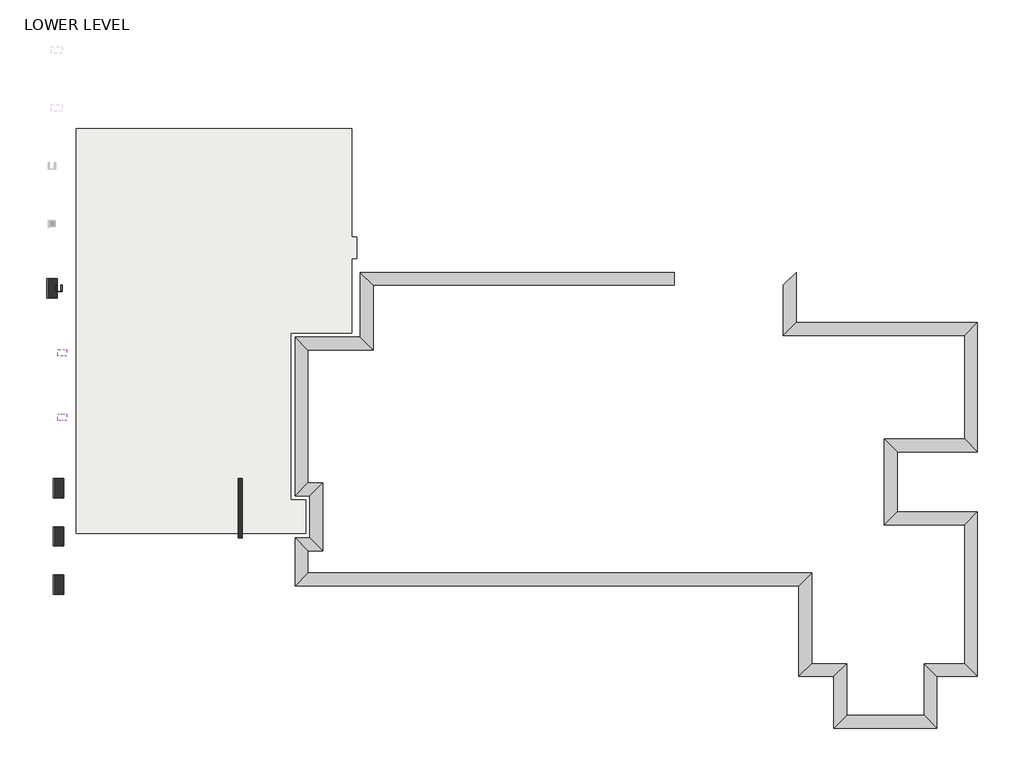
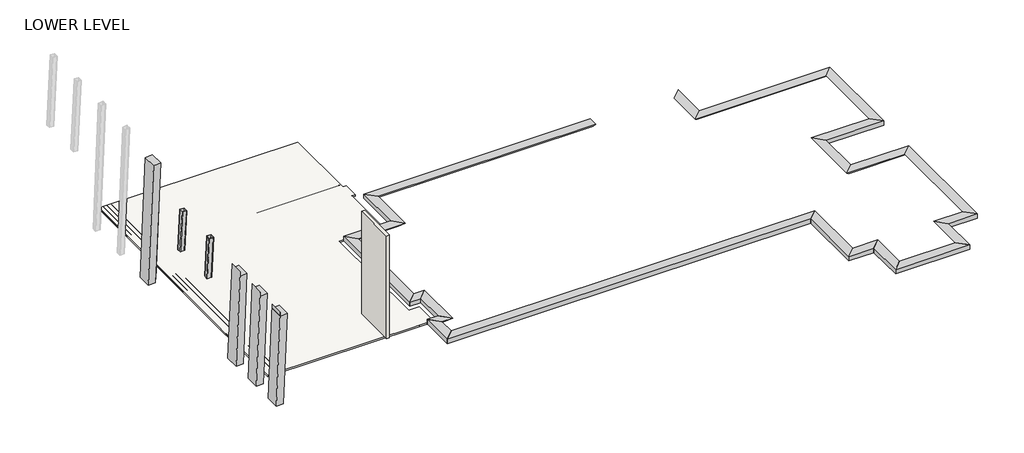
# One storey, part 1 of 3: 10 proxies, 7 columns, 1 slab, 1 wall.
"""IFC4 building model written with IfcOpenShell, lengths in millimetres."""

from ifc_helpers import new_model, si_unit, frame, origin, place, context, project, spatial, polyline, circle_curve, ellipse_curve, outline, extrude, faceted_brep, element, save
from ifc_brep_helpers import plane_surface, cylinder_surface, revolved_surface, advanced_brep

model = new_model("IFC4")

# Units and contexts
model_context = context("Model", 3, world=origin())
ifc_project = project(units=[si_unit("LENGTHUNIT", "METRE", prefix="MILLI")], contexts=[model_context])

# Site, building, storey
site = spatial("IfcSite", under=ifc_project)
building = spatial("IfcBuilding", under=site)
storey = spatial("IfcBuildingStorey", under=building, Name="LOWER LEVEL", Elevation=29972.0)

# Proxies
placement = place(None, origin())
element("IfcBuildingElementProxy", 1, Name="Thickened 24\" x 12\"", ObjectType="Thickened 24\" x 12\"", at=placement, inside=storey, context=model_context, shape_type="Brep", body=[
    faceted_brep([(-10225.7204607, -7095.1304995, 30048.2), (-10225.7204607, -7095.1304995, 30353.0), (-9616.1204607, -6485.5304995, 30353.0), (-9920.9204607, -6790.3304995, 30048.2), (13583.6045393, -7095.1304995, 30048.2), (13888.4045393, -6790.3304995, 30048.2), (14193.2045393, -6485.5304995, 30353.0), (13583.6045393, -7095.1304995, 30353.0)], [[[0, 1, 2, 3]], [[4, 5, 6, 7]], [[1, 0, 4, 7]], [[2, 1, 7, 6]], [[3, 2, 6, 5]], [[0, 3, 5, 4]]]),
])
element("IfcBuildingElementProxy", 2, Name="Thickened 24\" x 12\"", ObjectType="Thickened 24\" x 12\"", at=placement, inside=storey, context=model_context, shape_type="Brep", body=[
    faceted_brep([(13583.6045393, -7095.1304995, 30048.2), (13583.6045393, -7095.1304995, 30353.0), (14193.2045393, -6485.5304995, 30353.0), (13888.4045393, -6790.3304995, 30048.2), (13583.6045393, -11381.3804995, 30048.2), (13888.4045393, -11076.5804995, 30048.2), (14193.2045393, -10771.7804995, 30353.0), (13583.6045393, -11381.3804995, 30353.0)], [[[0, 1, 2, 3]], [[4, 5, 6, 7]], [[1, 0, 4, 7]], [[2, 1, 7, 6]], [[3, 2, 6, 5]], [[0, 3, 5, 4]]]),
    faceted_brep([(20105.0545393, -11381.3804995, 30048.2), (20105.0545393, -11381.3804995, 30353.0), (19495.4545393, -10771.7804995, 30353.0), (19800.2545393, -11076.5804995, 30048.2), (22019.578935, -11381.3804995, 30048.2), (22019.578935, -11381.3804995, 30353.0), (21409.978935, -10771.7804995, 30353.0), (21714.778935, -11076.5804995, 30048.2), (22019.578935, -3602.6304995, 30048.2), (22019.578935, -3602.6304995, 30353.0), (21409.978935, -4212.2304995, 30353.0), (21714.778935, -3907.4304995, 30048.2), (18219.8486799, -3602.6304995, 30048.2), (18219.8486799, -3602.6304995, 30353.0), (17610.2486799, -4212.2304995, 30353.0), (17915.0486799, -3907.4304995, 30048.2), (18219.8486799, -757.8304995, 30048.2), (18219.8486799, -757.8304995, 30353.0), (17610.2486799, -148.2304995, 30353.0), (17915.0486799, -453.0304995, 30048.2), (22019.578935, -757.8304995, 30048.2), (22019.578935, -757.8304995, 30353.0), (21409.978935, -148.2304995, 30353.0), (21714.778935, -453.0304995, 30048.2), (22019.578935, 5350.8695005, 30048.2), (22019.578935, 5350.8695005, 30353.0), (21409.978935, 4741.2695005, 30353.0), (21714.778935, 5046.0695005, 30048.2), (13450.2545393, 5350.8695005, 30048.2), (13450.2545393, 5350.8695005, 30353.0), (12840.6545393, 4741.2695005, 30353.0), (13145.4545393, 5046.0695005, 30048.2), (13450.2545393, 7725.7695005, 30048.2), (13145.4545393, 7420.9695005, 30048.2), (12840.6545393, 7116.1695005, 30353.0), (13450.2545393, 7725.7695005, 30353.0)], [[[0, 1, 2, 3]], [[1, 0, 4, 5]], [[2, 1, 5, 6]], [[3, 2, 6, 7]], [[0, 3, 7, 4]], [[5, 4, 8, 9]], [[6, 5, 9, 10]], [[7, 6, 10, 11]], [[4, 7, 11, 8]], [[9, 8, 12, 13]], [[10, 9, 13, 14]], [[11, 10, 14, 15]], [[8, 11, 15, 12]], [[13, 12, 16, 17]], [[14, 13, 17, 18]], [[15, 14, 18, 19]], [[12, 15, 19, 16]], [[17, 16, 20, 21]], [[18, 17, 21, 22]], [[19, 18, 22, 23]], [[16, 19, 23, 20]], [[21, 20, 24, 25]], [[22, 21, 25, 26]], [[23, 22, 26, 27]], [[20, 23, 27, 24]], [[25, 24, 28, 29]], [[26, 25, 29, 30]], [[27, 26, 30, 31]], [[24, 27, 31, 28]], [[32, 33, 34, 35]], [[29, 28, 32, 35]], [[30, 29, 35, 34]], [[31, 30, 34, 33]], [[28, 31, 33, 32]]]),
    faceted_brep([(7700.3295393, 7725.7695005, 30048.2), (7700.3295393, 7725.7695005, 30353.0), (7700.3295393, 7382.8695005, 30353.0), (7700.3295393, 7116.1695005, 30353.0), (7700.3295393, 7420.9695005, 30048.2), (7700.3295393, 7687.6695005, 30048.2), (-7149.1454607, 7725.7695005, 30048.2), (-7149.1454607, 7725.7695005, 30353.0), (-6539.5454607, 7116.1695005, 30353.0), (-6844.3454607, 7420.9695005, 30048.2), (-7149.1454607, 4661.8945005, 30048.2), (-7149.1454607, 4661.8945005, 30353.0), (-6539.5454607, 4052.2945005, 30353.0), (-6844.3454607, 4357.0945005, 30048.2), (-10225.7204607, 4661.8945005, 30048.2), (-10225.7204607, 4661.8945005, 30353.0), (-9616.1204607, 4052.2945005, 30353.0), (-9920.9204607, 4357.0945005, 30048.2), (-10225.7204607, -2837.4554995, 30048.2), (-9920.9204607, -2532.6554995, 30048.2), (-9616.1204607, -2227.8554995, 30353.0), (-10225.7204607, -2837.4554995, 30353.0)], [[[0, 1, 2, 3, 4, 5]], [[1, 0, 6, 7]], [[3, 2, 1, 7, 8]], [[4, 3, 8, 9]], [[0, 5, 4, 9, 6]], [[7, 6, 10, 11]], [[8, 7, 11, 12]], [[9, 8, 12, 13]], [[6, 9, 13, 10]], [[11, 10, 14, 15]], [[12, 11, 15, 16]], [[13, 12, 16, 17]], [[10, 13, 17, 14]], [[18, 19, 20, 21]], [[15, 14, 18, 21]], [[16, 15, 21, 20]], [[17, 16, 20, 19]], [[14, 17, 19, 18]]]),
])
element("IfcBuildingElementProxy", 3, Name="Thickened 24\" x 12\"", ObjectType="Thickened 24\" x 12\"", at=placement, inside=storey, context=model_context, shape_type="Brep", body=[
    faceted_brep([(-10225.7204607, -4821.8304995, 30048.2), (-10225.7204607, -4821.8304995, 30353.0), (-9616.1204607, -5431.4304995, 30353.0), (-9920.9204607, -5126.6304995, 30048.2), (-10225.7204607, -7095.1304995, 30048.2), (-9920.9204607, -6790.3304995, 30048.2), (-9616.1204607, -6485.5304995, 30353.0), (-10225.7204607, -7095.1304995, 30353.0)], [[[0, 1, 2, 3]], [[4, 5, 6, 7]], [[1, 0, 4, 7]], [[2, 1, 7, 6]], [[3, 2, 6, 5]], [[0, 3, 5, 4]]]),
])
element("IfcBuildingElementProxy", 4, Name="Thickened 24\" x 12\"", ObjectType="Thickened 24\" x 12\"", at=placement, inside=storey, context=model_context, shape_type="Brep", body=[
    faceted_brep([(13583.6045393, -11381.3804995, 30048.2), (13583.6045393, -11381.3804995, 30353.0), (14193.2045393, -10771.7804995, 30353.0), (13888.4045393, -11076.5804995, 30048.2), (15240.9545393, -11381.3804995, 30048.2), (15545.7545393, -11076.5804995, 30048.2), (15850.5545393, -10771.7804995, 30353.0), (15240.9545393, -11381.3804995, 30353.0)], [[[0, 1, 2, 3]], [[4, 5, 6, 7]], [[1, 0, 4, 7]], [[2, 1, 7, 6]], [[3, 2, 6, 5]], [[0, 3, 5, 4]]]),
])
element("IfcBuildingElementProxy", 5, Name="Thickened 24\" x 12\"", ObjectType="Thickened 24\" x 12\"", at=placement, inside=storey, context=model_context, shape_type="Brep", body=[
    faceted_brep([(-10225.7204607, -2837.4554995, 30048.2), (-10225.7204607, -2837.4554995, 30353.0), (-9616.1204607, -2227.8554995, 30353.0), (-9920.9204607, -2532.6554995, 30048.2), (-9524.0454607, -2837.4554995, 30048.2), (-9219.2454607, -2532.6554995, 30048.2), (-8914.4454607, -2227.8554995, 30353.0), (-9524.0454607, -2837.4554995, 30353.0)], [[[0, 1, 2, 3]], [[4, 5, 6, 7]], [[1, 0, 4, 7]], [[2, 1, 7, 6]], [[3, 2, 6, 5]], [[0, 3, 5, 4]]]),
])
element("IfcBuildingElementProxy", 6, Name="Thickened 24\" x 12\"", ObjectType="Thickened 24\" x 12\"", at=placement, inside=storey, context=model_context, shape_type="Brep", body=[
    faceted_brep([(-9524.0454607, -2837.4554995, 30048.2), (-9524.0454607, -2837.4554995, 30353.0), (-8914.4454607, -2227.8554995, 30353.0), (-9219.2454607, -2532.6554995, 30048.2), (-9524.0454607, -4821.8304995, 30048.2), (-9219.2454607, -5126.6304995, 30048.2), (-8914.4454607, -5431.4304995, 30353.0), (-9524.0454607, -4821.8304995, 30353.0)], [[[0, 1, 2, 3]], [[4, 5, 6, 7]], [[1, 0, 4, 7]], [[2, 1, 7, 6]], [[3, 2, 6, 5]], [[0, 3, 5, 4]]]),
])
element("IfcBuildingElementProxy", 7, Name="Thickened 24\" x 12\"", ObjectType="Thickened 24\" x 12\"", at=placement, inside=storey, context=model_context, shape_type="Brep", body=[
    faceted_brep([(-9524.0454607, -4821.8304995, 30048.2), (-9524.0454607, -4821.8304995, 30353.0), (-8914.4454607, -5431.4304995, 30353.0), (-9219.2454607, -5126.6304995, 30048.2), (-10225.7204607, -4821.8304995, 30048.2), (-9920.9204607, -5126.6304995, 30048.2), (-9616.1204607, -5431.4304995, 30353.0), (-10225.7204607, -4821.8304995, 30353.0)], [[[0, 1, 2, 3]], [[4, 5, 6, 7]], [[1, 0, 4, 7]], [[2, 1, 7, 6]], [[3, 2, 6, 5]], [[0, 3, 5, 4]]]),
])
element("IfcBuildingElementProxy", 8, Name="Thickened 24\" x 12\"", ObjectType="Thickened 24\" x 12\"", at=placement, inside=storey, context=model_context, shape_type="Brep", body=[
    faceted_brep([(15240.9545393, -11381.3804995, 30048.2), (15240.9545393, -11381.3804995, 30353.0), (15850.5545393, -10771.7804995, 30353.0), (15545.7545393, -11076.5804995, 30048.2), (15240.9545393, -13826.1304995, 30048.2), (15545.7545393, -13521.3304995, 30048.2), (15850.5545393, -13216.5304995, 30353.0), (15240.9545393, -13826.1304995, 30353.0)], [[[0, 1, 2, 3]], [[4, 5, 6, 7]], [[1, 0, 4, 7]], [[2, 1, 7, 6]], [[3, 2, 6, 5]], [[0, 3, 5, 4]]]),
])
element("IfcBuildingElementProxy", 9, Name="Thickened 24\" x 12\"", ObjectType="Thickened 24\" x 12\"", at=placement, inside=storey, context=model_context, shape_type="Brep", body=[
    faceted_brep([(15240.9545393, -13826.1304995, 30048.2), (15240.9545393, -13826.1304995, 30353.0), (15850.5545393, -13216.5304995, 30353.0), (15545.7545393, -13521.3304995, 30048.2), (20105.0545393, -13826.1304995, 30048.2), (19800.2545393, -13521.3304995, 30048.2), (19495.4545393, -13216.5304995, 30353.0), (20105.0545393, -13826.1304995, 30353.0)], [[[0, 1, 2, 3]], [[4, 5, 6, 7]], [[1, 0, 4, 7]], [[2, 1, 7, 6]], [[3, 2, 6, 5]], [[0, 3, 5, 4]]]),
])
element("IfcBuildingElementProxy", 10, Name="Thickened 24\" x 12\"", ObjectType="Thickened 24\" x 12\"", at=placement, inside=storey, context=model_context, shape_type="Brep", body=[
    faceted_brep([(20105.0545393, -13826.1304995, 30048.2), (20105.0545393, -13826.1304995, 30353.0), (19495.4545393, -13216.5304995, 30353.0), (19800.2545393, -13521.3304995, 30048.2), (20105.0545393, -11381.3804995, 30048.2), (19800.2545393, -11076.5804995, 30048.2), (19495.4545393, -10771.7804995, 30353.0), (20105.0545393, -11381.3804995, 30353.0)], [[[0, 1, 2, 3]], [[4, 5, 6, 7]], [[1, 0, 4, 7]], [[2, 1, 7, 6]], [[3, 2, 6, 5]], [[0, 3, 5, 4]]]),
])

# Columns
element("IfcColumn", 11, ObjectType="Concrete-Rectangular-Column : A_str", at=placement, inside=storey, context=model_context, shape_type="SweptSolid", body=[
    extrude(outline(polyline([(38153.5165689, -21149.7498015), (38102.0297181, -21610.0591887), (29972.0, -21968.2744496), (29972.0, -21510.233612), (38153.5165689, -21149.7498015)])), frame((0.0, 6519.2695005, 0.0), z_axis=(0.0, 1.0, 0.0), x_axis=(0.0, 0.0, 1.0)), (0.0, 0.0, 1.0), 914.4),
])
element("IfcColumn", 12, ObjectType="Concrete-Rectangular-Column : A_str", at=placement, inside=storey, context=model_context, shape_type="SweptSolid", body=[
    extrude(outline(polyline([(29973.8530358, -21660.8606217), (29973.8530358, -21202.8638747), (36170.6135377, -20943.7483082), (36120.4712951, -21392.0570572), (36402.3024462, -21392.0570572), (29973.8530358, -21660.8606217)])), frame((0.0, -7501.5304995, 0.0), z_axis=(0.0, 1.0, 0.0), x_axis=(0.0, 0.0, 1.0)), (0.0, 0.0, 1.0), 914.4),
])
element("IfcColumn", 13, ObjectType="Concrete-Rectangular-Column : A_str", at=placement, inside=storey, context=model_context, shape_type="SweptSolid", body=[
    extrude(outline(polyline([(29973.8530358, -21660.8606217), (29973.8530358, -21202.8638747), (36170.6135377, -20943.7483082), (36120.4712951, -21392.0570572), (36402.3024462, -21392.0570572), (29973.8530358, -21660.8606217)])), frame((0.0, -2929.5304995, 0.0), z_axis=(0.0, 1.0, 0.0), x_axis=(0.0, 0.0, 1.0)), (0.0, 0.0, 1.0), 914.4),
])
element("IfcColumn", 14, ObjectType="Concrete-Rectangular-Column : A_str", at=placement, inside=storey, context=model_context, shape_type="SweptSolid", body=[
    extrude(outline(polyline([(29973.8530358, -21660.8606217), (29973.8530358, -21202.8638747), (36170.6135377, -20943.7483082), (36120.4712951, -21392.0570572), (36402.3024462, -21392.0570572), (29973.8530358, -21660.8606217)])), frame((0.0, -5215.5304995, 0.0), z_axis=(0.0, 1.0, 0.0), x_axis=(0.0, 0.0, 1.0)), (0.0, 0.0, 1.0), 914.4),
])
element("IfcColumn", 15, ObjectType="HSS-Hollow Structural Section-Column : HSS12X12X1/2", at=placement, inside=storey, context=model_context, shape_type="AdvancedBrep", body=[
    advanced_brep(
    [(-21315.8891626, 7105.2475005, 36435.6858997), (-21584.4793713, 7105.2475005, 29976.5811676), (-21584.4793713, 6847.6915005, 29976.5811676), (-21315.8891626, 6847.6915005, 36435.6858997), (-21292.1362735, 6835.8805005, 36438.342617), (-21560.877768, 6835.8805005, 29975.5997375), (-21572.6785697, 6847.6915005, 29976.0904526), (-21304.012718, 6847.6915005, 36437.0142583), (-21033.15316, 6835.8805005, 36467.3094054), (-21303.5441577, 6835.8805005, 29964.8989839), (-21021.2767155, 6847.6915005, 36468.637764), (-21291.743356, 6847.6915005, 29964.4082689), (-21021.2767155, 7105.2475005, 36468.637764), (-21291.743356, 7105.2475005, 29964.4082689), (-21033.15316, 7117.0585005, 36467.3094054), (-21303.5441577, 7117.0585005, 29964.8989839), (-21292.1362735, 7117.0585005, 36438.342617), (-21560.877768, 7117.0585005, 29975.5997375), (-21304.012718, 7105.2475005, 36437.0142583), (-21572.6785697, 7105.2475005, 29976.0904526), (-21292.1362735, 7128.8695005, 36438.342617), (-21560.877768, 7128.8695005, 29975.5997375), (-21303.5441577, 7128.8695005, 29964.8989839), (-21279.9425544, 7105.2475005, 29963.9175539), (-21279.9425544, 6847.6915005, 29963.9175539), (-21303.5441577, 6824.0695005, 29964.8989839), (-21560.877768, 6824.0695005, 29975.5997375), (-21292.1362735, 6824.0695005, 36438.342617), (-21033.15316, 7128.8695005, 36467.3094054), (-21009.4002709, 7105.2475005, 36469.9661227), (-21009.4002709, 6847.6915005, 36469.9661227), (-21033.15316, 6824.0695005, 36467.3094054)],
    [
        (0, 1),
        (1, 2),
        (2, 3),
        (3, 0),
        (4, 5),
        (5, 6, circle_curve(frame((-21560.877768, 6847.6915005, 29975.5997375), z_axis=(-0.041547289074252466, 0.0, -0.9991365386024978), x_axis=(0.0, 1.0, 0.0)), 11.811)),
        (6, 7),
        (7, 4, ellipse_curve(frame((-21292.1362735, 6847.6915005, 36438.342617), z_axis=(-0.11115505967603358, 0.0, 0.9938030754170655), x_axis=(-0.9938030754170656, 0.0, -0.11115505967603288)), 11.9505009, 11.811)),
        (8, 9),
        (9, 5),
        (4, 8),
        (10, 11),
        (11, 9, circle_curve(frame((-21303.5441577, 6847.6915005, 29964.8989839), z_axis=(-0.041547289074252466, 0.0, -0.9991365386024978), x_axis=(0.0, 1.0, 0.0)), 11.811)),
        (8, 10, ellipse_curve(frame((-21033.15316, 6847.6915005, 36467.3094054), z_axis=(-0.11115505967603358, 0.0, 0.9938030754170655), x_axis=(-0.9938030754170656, 0.0, -0.11115505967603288)), 11.9505009, 11.811)),
        (12, 13),
        (13, 11),
        (10, 12),
        (14, 15),
        (15, 13, circle_curve(frame((-21303.5441577, 7105.2475005, 29964.8989839), z_axis=(-0.041547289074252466, 0.0, -0.9991365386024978), x_axis=(0.0, 1.0, 0.0)), 11.811)),
        (12, 14, ellipse_curve(frame((-21033.15316, 7105.2475005, 36467.3094054), z_axis=(-0.11115505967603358, 0.0, 0.9938030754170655), x_axis=(-0.9938030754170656, 0.0, -0.11115505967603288)), 11.9505009, 11.811)),
        (16, 17),
        (17, 15),
        (14, 16),
        (18, 19),
        (19, 17, circle_curve(frame((-21560.877768, 7105.2475005, 29975.5997375), z_axis=(-0.041547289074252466, 0.0, -0.9991365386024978), x_axis=(0.0, 1.0, 0.0)), 11.811)),
        (16, 18, ellipse_curve(frame((-21292.1362735, 7105.2475005, 36438.342617), z_axis=(-0.11115505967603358, 0.0, 0.9938030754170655), x_axis=(-0.9938030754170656, 0.0, -0.11115505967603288)), 11.9505009, 11.811)),
        (20, 21),
        (21, 1, circle_curve(frame((-21560.877768, 7105.2475005, 29975.5997375), z_axis=(0.041547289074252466, 0.0, 0.9991365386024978), x_axis=(0.0, 1.0, 0.0)), 23.622)),
        (0, 20, ellipse_curve(frame((-21292.1362735, 7105.2475005, 36438.342617), z_axis=(0.11115505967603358, 0.0, -0.9938030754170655), x_axis=(0.9938030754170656, 0.0, 0.11115505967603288)), 23.9010018, 23.622)),
        (21, 22),
        (22, 23, circle_curve(frame((-21303.5441577, 7105.2475005, 29964.8989839), z_axis=(-0.041547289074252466, 0.0, -0.9991365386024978), x_axis=(0.0, 1.0, 0.0)), 23.622)),
        (23, 24),
        (24, 25, circle_curve(frame((-21303.5441577, 6847.6915005, 29964.8989839), z_axis=(-0.041547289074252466, 0.0, -0.9991365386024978), x_axis=(0.0, 1.0, 0.0)), 23.622)),
        (25, 26),
        (26, 2, circle_curve(frame((-21560.877768, 6847.6915005, 29975.5997375), z_axis=(-0.041547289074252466, 0.0, -0.9991365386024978), x_axis=(0.0, 1.0, 0.0)), 23.622)),
        (19, 6),
        (26, 27),
        (27, 3, ellipse_curve(frame((-21292.1362735, 6847.6915005, 36438.342617), z_axis=(0.11115505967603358, 0.0, -0.9938030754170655), x_axis=(0.9938030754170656, 0.0, 0.11115505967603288)), 23.9010018, 23.622)),
        (18, 7),
        (28, 22),
        (20, 28),
        (29, 23),
        (28, 29, ellipse_curve(frame((-21033.15316, 7105.2475005, 36467.3094054), z_axis=(0.11115505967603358, 0.0, -0.9938030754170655), x_axis=(0.9938030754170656, 0.0, 0.11115505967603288)), 23.9010018, 23.622)),
        (30, 24),
        (29, 30),
        (31, 25),
        (30, 31, ellipse_curve(frame((-21033.15316, 6847.6915005, 36467.3094054), z_axis=(0.11115505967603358, 0.0, -0.9938030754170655), x_axis=(0.9938030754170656, 0.0, 0.11115505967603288)), 23.9010018, 23.622)),
        (31, 27),
    ],
    [
        plane_surface(frame((-21296.7925453, 7105.2475005, 36894.9247206), z_axis=(-0.9991365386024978, 0.0, 0.041547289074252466), x_axis=(-0.041547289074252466, 0.0, -0.9991365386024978))),
        revolved_surface(polyline([(-21560.877768, 6859.5025005, 29975.5997375), (-21292.060630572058, 6859.5025005, 36440.16169067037)]), (-21560.877768, 6847.6915005, 29975.5997375), (-0.041547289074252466, 0.0, -0.9991365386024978)),
        plane_surface(frame((-21015.8573317, 6835.8805005, 36883.242537), z_axis=(0.0, 1.0000000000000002, 0.0), x_axis=(-0.041547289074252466, 0.0, -0.9991365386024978))),
        revolved_surface(polyline([(-21303.5441577, 6859.5025005, 29964.8989839), (-21033.07751715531, 6859.5025005, 36469.128479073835)]), (-21303.5441577, 6847.6915005, 29964.8989839), (-0.041547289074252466, 0.0, -0.9991365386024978)),
        plane_surface(frame((-21004.05653, 7105.2475005, 36882.7518219), z_axis=(-0.9991365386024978, 0.0, 0.041547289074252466), x_axis=(-0.041547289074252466, 0.0, -0.9991365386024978))),
        revolved_surface(polyline([(-21303.5441577, 7117.058500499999, 29964.8989839), (-21033.07751715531, 7117.058500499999, 36469.128479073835)]), (-21303.5441577, 7105.2475005, 29964.8989839), (-0.041547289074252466, 0.0, -0.9991365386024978)),
        plane_surface(frame((-21273.190942, 7117.0585005, 36893.9432905), z_axis=(0.0, -1.0000000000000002, 0.0), x_axis=(-0.041547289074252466, 0.0, -0.9991365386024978))),
        revolved_surface(polyline([(-21560.877768, 7117.058500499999, 29975.5997375), (-21292.060630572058, 7117.058500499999, 36440.16169067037)]), (-21560.877768, 7105.2475005, 29975.5997375), (-0.041547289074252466, 0.0, -0.9991365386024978)),
        cylinder_surface(frame((-21560.877768, 7105.2475005, 29975.5997375), z_axis=(0.041547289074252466, 0.0, 0.9991365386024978), x_axis=(0.0, 1.0, 0.0)), 23.622),
        plane_surface(frame((-21584.4793713, 6847.6915005, 29976.5811676), z_axis=(-0.04154728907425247, 0.0, -0.9991365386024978), x_axis=(0.0, 1.0, 0.0))),
        cylinder_surface(frame((-21560.877768, 6847.6915005, 29975.5997375), z_axis=(0.041547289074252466, 0.0, 0.9991365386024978), x_axis=(0.0, 1.0, 0.0)), 23.622),
        plane_surface(frame((-21284.9917437, 6847.6915005, 36894.4340056), z_axis=(0.9991365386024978, 0.0, -0.041547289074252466), x_axis=(-0.041547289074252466, 0.0, -0.9991365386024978))),
        plane_surface(frame((-21015.8573317, 7128.8695005, 36883.242537), z_axis=(0.0, 1.0000000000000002, 0.0), x_axis=(-0.041547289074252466, 0.0, -0.9991365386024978))),
        cylinder_surface(frame((-21303.5441577, 7105.2475005, 29964.8989839), z_axis=(0.041547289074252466, 0.0, 0.9991365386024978), x_axis=(0.0, 1.0, 0.0)), 23.622),
        plane_surface(frame((-20992.2557284, 6847.6915005, 36882.2611069), z_axis=(0.9991365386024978, 0.0, -0.041547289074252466), x_axis=(-0.041547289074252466, 0.0, -0.9991365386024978))),
        cylinder_surface(frame((-21303.5441577, 6847.6915005, 29964.8989839), z_axis=(0.041547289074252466, 0.0, 0.9991365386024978), x_axis=(0.0, 1.0, 0.0)), 23.622),
        plane_surface(frame((-21273.190942, 6824.0695005, 36893.9432905), z_axis=(0.0, -1.0000000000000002, 0.0), x_axis=(-0.041547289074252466, 0.0, -0.9991365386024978))),
        plane_surface(frame((-11485.0467002, -8086.4745246, 37535.2476817), z_axis=(-0.11115505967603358, 0.0, 0.9938030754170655), x_axis=(0.9938030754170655, 0.0, 0.11115505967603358))),
    ],
    [
        (0, [[1, 2, 3, 4]]),
        (1, [[5, 6, 7, 8]]),
        (2, [[9, 10, -5, 11]]),
        (3, [[12, 13, -9, 14]]),
        (4, [[15, 16, -12, 17]]),
        (5, [[18, 19, -15, 20]]),
        (6, [[21, 22, -18, 23]]),
        (7, [[24, 25, -21, 26]]),
        (8, [[27, 28, -1, 29]]),
        (9, [[-28, 30, 31, 32, 33, 34, 35, -2], [36, -6, -10, -13, -16, -19, -22, -25]]),
        (10, [[-3, -35, 37, 38]]),
        (11, [[-7, -36, -24, 39]]),
        (12, [[40, -30, -27, 41]]),
        (13, [[42, -31, -40, 43]]),
        (14, [[44, -32, -42, 45]]),
        (15, [[46, -33, -44, 47]]),
        (16, [[-37, -34, -46, 48]]),
        (17, [[-4, -38, -48, -47, -45, -43, -41, -29], [-8, -39, -26, -23, -20, -17, -14, -11]]),
    ],
),
])
element("IfcColumn", 16, ObjectType="HSS-Hollow Structural Section-Column : HSS12X12X1/2", at=placement, inside=storey, context=model_context, shape_type="AdvancedBrep", body=[
    advanced_brep(
    [(-21314.3989774, 4057.2475005, 36460.4597914), (-21314.3989774, 3799.6915005, 36460.4597914), (-21290.8062344, 3776.0695005, 36459.284478), (-21033.5692301, 3776.0695005, 36446.4697701), (-21009.9764871, 3799.6915005, 36445.2944567), (-21009.9764871, 4057.2475005, 36445.2944567), (-21033.5692301, 4080.8695005, 36446.4697701), (-21290.8062344, 4080.8695005, 36459.284478), (-21302.6026059, 4057.2475005, 36459.8721347), (-21290.8062344, 4069.0585005, 36459.284478), (-21033.5692301, 4069.0585005, 36446.4697701), (-21021.7728586, 4057.2475005, 36445.8821134), (-21021.7728586, 3799.6915005, 36445.8821134), (-21033.5692301, 3787.8805005, 36446.4697701), (-21290.8062344, 3787.8805005, 36459.284478), (-21302.6026059, 3799.6915005, 36459.8721347), (-21438.3873443, 4057.2475005, 33734.1869423), (-21426.6239307, 4069.0585005, 33732.9377019), (-21168.7485395, 4069.0585005, 33732.9377019), (-21156.8606597, 4057.2475005, 33734.1869423), (-21155.5035771, 3799.6915005, 33761.4284423), (-21167.2669907, 3787.8805005, 33762.6776827), (-21425.1423819, 3787.8805005, 33762.6776827), (-21437.0302617, 3799.6915005, 33761.4284423), (-21450.2129909, 4057.2475005, 33734.1869423), (-21448.8559083, 3799.6915005, 33761.4284423), (-21426.6861638, 4080.8695005, 33731.6884615), (-21425.0801489, 3776.0695005, 33763.9269231), (-21167.2047576, 3776.0695005, 33763.9269231), (-21143.6779305, 3799.6915005, 33761.4284423), (-21145.0350131, 4057.2475005, 33734.1869423), (-21168.8107725, 4080.8695005, 33731.6884615)],
    [
        (0, 1),
        (1, 2, circle_curve(frame((-21290.8062344, 3799.6915005, 36459.284478), z_axis=(0.04975503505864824, 0.0, 0.9987614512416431), x_axis=(0.0, 0.9999999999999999, 0.0)), 23.622)),
        (2, 3),
        (3, 4, circle_curve(frame((-21033.5692301, 3799.6915005, 36446.4697701), z_axis=(0.04975503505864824, 0.0, 0.9987614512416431), x_axis=(0.0, 0.9999999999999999, 0.0)), 23.622)),
        (4, 5),
        (5, 6, circle_curve(frame((-21033.5692301, 4057.2475005, 36446.4697701), z_axis=(0.04975503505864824, 0.0, 0.9987614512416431), x_axis=(0.0, 0.9999999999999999, 0.0)), 23.622)),
        (6, 7),
        (7, 0, circle_curve(frame((-21290.8062344, 4057.2475005, 36459.284478), z_axis=(0.04975503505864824, 0.0, 0.9987614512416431), x_axis=(0.0, 0.9999999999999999, 0.0)), 23.622)),
        (8, 9, circle_curve(frame((-21290.8062344, 4057.2475005, 36459.284478), z_axis=(-0.04975503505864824, 0.0, -0.9987614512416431), x_axis=(0.0, 0.9999999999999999, 0.0)), 11.811)),
        (9, 10),
        (10, 11, circle_curve(frame((-21033.5692301, 4057.2475005, 36446.4697701), z_axis=(-0.04975503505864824, 0.0, -0.9987614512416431), x_axis=(0.0, 0.9999999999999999, 0.0)), 11.811)),
        (11, 12),
        (12, 13, circle_curve(frame((-21033.5692301, 3799.6915005, 36446.4697701), z_axis=(-0.04975503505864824, 0.0, -0.9987614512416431), x_axis=(0.0, 0.9999999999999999, 0.0)), 11.811)),
        (13, 14),
        (14, 15, circle_curve(frame((-21290.8062344, 3799.6915005, 36459.284478), z_axis=(-0.04975503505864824, 0.0, -0.9987614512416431), x_axis=(0.0, 0.9999999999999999, 0.0)), 11.811)),
        (15, 8),
        (8, 16),
        (16, 17, ellipse_curve(frame((-21426.5616976, 4057.2475005, 33734.1869423), z_axis=(0.0, -0.10518252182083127, -0.9944529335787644), x_axis=(-0.42804027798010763, 0.8987464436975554, -0.09505972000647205)), 11.8916102, 11.811)),
        (17, 9),
        (17, 18),
        (18, 10),
        (18, 19, ellipse_curve(frame((-21168.6863064, 4057.2475005, 33734.1869423), z_axis=(0.0, -0.10518252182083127, -0.9944529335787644), x_axis=(-0.42804027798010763, 0.8987464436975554, -0.09505972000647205)), 11.8916102, 11.811)),
        (19, 11),
        (19, 20),
        (20, 12),
        (20, 21, ellipse_curve(frame((-21167.3292238, 3799.6915005, 33761.4284423), z_axis=(0.0, -0.10518252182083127, -0.9944529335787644), x_axis=(-0.42804027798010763, 0.8987464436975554, -0.09505972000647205)), 11.8916102, 11.811)),
        (21, 13),
        (21, 22),
        (22, 14),
        (22, 23, ellipse_curve(frame((-21425.204615, 3799.6915005, 33761.4284423), z_axis=(0.0, -0.10518252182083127, -0.9944529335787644), x_axis=(-0.42804027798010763, 0.8987464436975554, -0.09505972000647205)), 11.8916102, 11.811)),
        (23, 15),
        (0, 24),
        (24, 25),
        (25, 1),
        (7, 26),
        (26, 24, ellipse_curve(frame((-21426.5616976, 4057.2475005, 33734.1869423), z_axis=(0.0, 0.10518252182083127, 0.9944529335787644), x_axis=(0.42804027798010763, -0.8987464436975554, 0.09505972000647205)), 23.7832204, 23.622)),
        (25, 27, ellipse_curve(frame((-21425.204615, 3799.6915005, 33761.4284423), z_axis=(0.0, 0.10518252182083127, 0.9944529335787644), x_axis=(0.42804027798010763, -0.8987464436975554, 0.09505972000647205)), 23.7832204, 23.622)),
        (27, 2),
        (23, 16),
        (27, 28),
        (28, 3),
        (28, 29, ellipse_curve(frame((-21167.3292238, 3799.6915005, 33761.4284423), z_axis=(0.0, 0.10518252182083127, 0.9944529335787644), x_axis=(0.42804027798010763, -0.8987464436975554, 0.09505972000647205)), 23.7832204, 23.622)),
        (29, 4),
        (29, 30),
        (30, 5),
        (30, 31, ellipse_curve(frame((-21168.6863064, 4057.2475005, 33734.1869423), z_axis=(0.0, 0.10518252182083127, 0.9944529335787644), x_axis=(0.42804027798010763, -0.8987464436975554, 0.09505972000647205)), 23.7832204, 23.622)),
        (31, 6),
        (31, 26),
    ],
    [
        plane_surface(frame((-21314.3989774, 3799.6915005, 36460.4597914), z_axis=(0.049755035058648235, 0.0, 0.998761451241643), x_axis=(0.0, -1.0, 0.0))),
        revolved_surface(polyline([(-21426.630472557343, 4069.0585005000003, 33732.80638373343), (-21290.806234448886, 4069.0585005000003, 36459.28447800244)]), (-21448.3381122, 4057.2475005, 33297.0564411), (-0.04975503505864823, 0.0, -0.9987614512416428)),
        plane_surface(frame((-21290.8062344, 4069.0585005, 36459.284478), z_axis=(0.0, -1.0, 0.0), x_axis=(-0.049755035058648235, 0.0, -0.998761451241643))),
        revolved_surface(polyline([(-21168.755081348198, 4069.0585005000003, 33732.80638373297), (-21033.569230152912, 4069.0585005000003, 36446.46977012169)]), (-21191.1011079, 4057.2475005, 33284.2417333), (-0.04975503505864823, 0.0, -0.9987614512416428)),
        plane_surface(frame((-21021.7728586, 4057.2475005, 36445.8821134), z_axis=(-0.998761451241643, 0.0, 0.049755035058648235), x_axis=(-0.049755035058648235, 0.0, -0.998761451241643))),
        revolved_surface(polyline([(-21167.39799874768, 3811.5025005, 33760.04788373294), (-21033.569230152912, 3811.5025005, 36446.46977012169)]), (-21191.1011079, 3799.6915005, 33284.2417333), (-0.04975503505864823, 0.0, -0.9987614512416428)),
        plane_surface(frame((-21033.5692301, 3787.8805005, 36446.4697701), z_axis=(0.0, 1.0, 0.0), x_axis=(-0.049755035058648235, 0.0, -0.998761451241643))),
        revolved_surface(polyline([(-21425.273389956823, 3811.5025005, 33760.047883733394), (-21290.806234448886, 3811.5025005, 36459.28447800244)]), (-21448.3381122, 3799.6915005, 33297.0564411), (-0.04975503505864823, 0.0, -0.9987614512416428)),
        plane_surface(frame((-21314.3989774, 4057.2475005, 36460.4597914), z_axis=(-0.998761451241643, 0.0, 0.049755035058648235), x_axis=(-0.049755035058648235, 0.0, -0.998761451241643))),
        cylinder_surface(frame((-21448.3381122, 4057.2475005, 33297.0564411), z_axis=(0.04975503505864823, 0.0, 0.9987614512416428), x_axis=(0.0, 0.9999999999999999, 0.0)), 23.622),
        cylinder_surface(frame((-21448.3381122, 3799.6915005, 33297.0564411), z_axis=(0.04975503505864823, 0.0, 0.9987614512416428), x_axis=(0.0, 0.9999999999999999, 0.0)), 23.622),
        plane_surface(frame((-21302.6026059, 3799.6915005, 36459.8721347), z_axis=(0.998761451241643, 0.0, -0.049755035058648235), x_axis=(-0.049755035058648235, 0.0, -0.998761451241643))),
        plane_surface(frame((-21290.8062344, 3776.0695005, 36459.284478), z_axis=(0.0, -1.0, 0.0), x_axis=(-0.049755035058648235, 0.0, -0.998761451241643))),
        cylinder_surface(frame((-21191.1011079, 3799.6915005, 33284.2417333), z_axis=(0.04975503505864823, 0.0, 0.9987614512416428), x_axis=(0.0, 0.9999999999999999, 0.0)), 23.622),
        plane_surface(frame((-21009.9764871, 3799.6915005, 36445.2944567), z_axis=(0.998761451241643, 0.0, -0.049755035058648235), x_axis=(-0.049755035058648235, 0.0, -0.998761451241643))),
        cylinder_surface(frame((-21191.1011079, 4057.2475005, 33284.2417333), z_axis=(0.04975503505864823, 0.0, 0.9987614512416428), x_axis=(0.0, 0.9999999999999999, 0.0)), 23.622),
        plane_surface(frame((-21033.5692301, 4080.8695005, 36446.4697701), z_axis=(0.0, 1.0, 0.0), x_axis=(-0.049755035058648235, 0.0, -0.998761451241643))),
        plane_surface(frame((-22209.6315188, 6979.583644, 33425.0936964), z_axis=(0.0, -0.10518252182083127, -0.9944529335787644), x_axis=(0.0, 0.9944529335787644, -0.10518252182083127))),
    ],
    [
        (0, [[1, 2, 3, 4, 5, 6, 7, 8], [9, 10, 11, 12, 13, 14, 15, 16]]),
        (1, [[-9, 17, 18, 19]]),
        (2, [[-10, -19, 20, 21]]),
        (3, [[-11, -21, 22, 23]]),
        (4, [[-12, -23, 24, 25]]),
        (5, [[-13, -25, 26, 27]]),
        (6, [[-14, -27, 28, 29]]),
        (7, [[-15, -29, 30, 31]]),
        (8, [[-1, 32, 33, 34]]),
        (9, [[-8, 35, 36, -32]]),
        (10, [[-2, -34, 37, 38]]),
        (11, [[-16, -31, 39, -17]]),
        (12, [[-3, -38, 40, 41]]),
        (13, [[-4, -41, 42, 43]]),
        (14, [[-5, -43, 44, 45]]),
        (15, [[-6, -45, 46, 47]]),
        (16, [[-7, -47, 48, -35]]),
        (17, [[-33, -36, -48, -46, -44, -42, -40, -37], [-30, -28, -26, -24, -22, -20, -18, -39]]),
    ],
),
])
element("IfcColumn", 17, ObjectType="HSS-Hollow Structural Section-Column : HSS12X12X1/2", at=placement, inside=storey, context=model_context, shape_type="AdvancedBrep", body=[
    advanced_brep(
    [(-21314.3972552, 1009.2475005, 36460.4600794), (-21314.3972552, 751.6915005, 36460.4600794), (-21290.804513, 728.0695005, 36459.2847511), (-21033.5675167, 728.0695005, 36446.4698812), (-21009.9747744, 751.6915005, 36445.2945529), (-21009.9747744, 1009.2475005, 36445.2945529), (-21033.5675167, 1032.8695005, 36446.4698812), (-21290.804513, 1032.8695005, 36459.2847511), (-21302.6008841, 1009.2475005, 36459.8724152), (-21290.804513, 1021.0585005, 36459.2847511), (-21033.5675167, 1021.0585005, 36446.4698812), (-21021.7711456, 1009.2475005, 36445.8822171), (-21021.7711456, 751.6915005, 36445.8822171), (-21033.5675167, 739.8805005, 36446.4698812), (-21290.804513, 739.8805005, 36459.2847511), (-21302.6008841, 751.6915005, 36459.8724152), (-21437.0302575, 1009.2475005, 33761.4284423), (-21425.1423766, 1021.0585005, 33762.6776827), (-21167.2669773, 1021.0585005, 33762.6776827), (-21155.5035641, 1009.2475005, 33761.4284423), (-21156.8606639, 751.6915005, 33734.1869423), (-21168.7485448, 739.8805005, 33732.9377019), (-21426.6239441, 739.8805005, 33732.9377019), (-21438.3873573, 751.6915005, 33734.1869423), (-21448.8559045, 1009.2475005, 33761.4284423), (-21450.2130043, 751.6915005, 33734.1869423), (-21425.0801427, 1032.8695005, 33763.9269231), (-21426.686178, 728.0695005, 33731.6884615), (-21168.8107787, 728.0695005, 33731.6884615), (-21145.0350169, 751.6915005, 33734.1869423), (-21143.6779171, 1009.2475005, 33761.4284423), (-21167.2047434, 1032.8695005, 33763.9269231)],
    [
        (0, 1),
        (1, 2, circle_curve(frame((-21290.804513, 751.6915005, 36459.2847511), z_axis=(0.04975566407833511, 0.0, 0.9987614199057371), x_axis=(0.0, 0.9999999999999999, 0.0)), 23.622)),
        (2, 3),
        (3, 4, circle_curve(frame((-21033.5675167, 751.6915005, 36446.4698812), z_axis=(0.04975566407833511, 0.0, 0.9987614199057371), x_axis=(0.0, 0.9999999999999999, 0.0)), 23.622)),
        (4, 5),
        (5, 6, circle_curve(frame((-21033.5675167, 1009.2475005, 36446.4698812), z_axis=(0.04975566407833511, 0.0, 0.9987614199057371), x_axis=(0.0, 0.9999999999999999, 0.0)), 23.622)),
        (6, 7),
        (7, 0, circle_curve(frame((-21290.804513, 1009.2475005, 36459.2847511), z_axis=(0.04975566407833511, 0.0, 0.9987614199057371), x_axis=(0.0, 0.9999999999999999, 0.0)), 23.622)),
        (8, 9, circle_curve(frame((-21290.804513, 1009.2475005, 36459.2847511), z_axis=(-0.04975566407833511, 0.0, -0.9987614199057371), x_axis=(0.0, 0.9999999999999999, 0.0)), 11.811)),
        (9, 10),
        (10, 11, circle_curve(frame((-21033.5675167, 1009.2475005, 36446.4698812), z_axis=(-0.04975566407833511, 0.0, -0.9987614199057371), x_axis=(0.0, 0.9999999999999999, 0.0)), 11.811)),
        (11, 12),
        (12, 13, circle_curve(frame((-21033.5675167, 751.6915005, 36446.4698812), z_axis=(-0.04975566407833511, 0.0, -0.9987614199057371), x_axis=(0.0, 0.9999999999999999, 0.0)), 11.811)),
        (13, 14),
        (14, 15, circle_curve(frame((-21290.804513, 751.6915005, 36459.2847511), z_axis=(-0.04975566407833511, 0.0, -0.9987614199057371), x_axis=(0.0, 0.9999999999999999, 0.0)), 11.811)),
        (15, 8),
        (8, 16),
        (16, 17, ellipse_curve(frame((-21425.2046105, 1009.2475005, 33761.4284423), z_axis=(0.0, 0.10518252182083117, -0.9944529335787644), x_axis=(-0.4280447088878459, -0.898744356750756, -0.09505949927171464)), 11.8916106, 11.811)),
        (17, 9),
        (17, 18),
        (18, 10),
        (18, 19, ellipse_curve(frame((-21167.3292111, 1009.2475005, 33761.4284423), z_axis=(0.0, 0.10518252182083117, -0.9944529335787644), x_axis=(-0.4280447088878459, -0.898744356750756, -0.09505949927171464)), 11.8916106, 11.811)),
        (19, 11),
        (19, 20),
        (20, 12),
        (20, 21, ellipse_curve(frame((-21168.6863109, 751.6915005, 33734.1869423), z_axis=(0.0, 0.10518252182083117, -0.9944529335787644), x_axis=(-0.4280447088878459, -0.898744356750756, -0.09505949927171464)), 11.8916106, 11.811)),
        (21, 13),
        (21, 22),
        (22, 14),
        (22, 23, ellipse_curve(frame((-21426.5617103, 751.6915005, 33734.1869423), z_axis=(0.0, 0.10518252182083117, -0.9944529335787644), x_axis=(-0.4280447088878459, -0.898744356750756, -0.09505949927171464)), 11.8916106, 11.811)),
        (23, 15),
        (0, 24),
        (24, 25),
        (25, 1),
        (7, 26),
        (26, 24, ellipse_curve(frame((-21425.2046105, 1009.2475005, 33761.4284423), z_axis=(0.0, -0.10518252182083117, 0.9944529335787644), x_axis=(0.4280447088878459, 0.898744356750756, 0.09505949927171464)), 23.7832211, 23.622)),
        (25, 27, ellipse_curve(frame((-21426.5617103, 751.6915005, 33734.1869423), z_axis=(0.0, -0.10518252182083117, 0.9944529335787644), x_axis=(0.4280447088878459, 0.898744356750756, 0.09505949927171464)), 23.7832211, 23.622)),
        (27, 2),
        (23, 16),
        (27, 28),
        (28, 3),
        (28, 29, ellipse_curve(frame((-21168.6863109, 751.6915005, 33734.1869423), z_axis=(0.0, -0.10518252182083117, 0.9944529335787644), x_axis=(0.4280447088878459, 0.898744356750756, 0.09505949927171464)), 23.7832211, 23.622)),
        (29, 4),
        (29, 30),
        (30, 5),
        (30, 31, ellipse_curve(frame((-21167.3292111, 1009.2475005, 33761.4284423), z_axis=(0.0, -0.10518252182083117, 0.9944529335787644), x_axis=(0.4280447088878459, 0.898744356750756, 0.09505949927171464)), 23.7832211, 23.622)),
        (31, 6),
        (31, 26),
    ],
    [
        plane_surface(frame((-21314.3972552, 751.6915005, 36460.4600794), z_axis=(0.0497556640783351, 0.0, 0.998761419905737), x_axis=(0.0, -1.0, 0.0))),
        revolved_surface(polyline([(-21425.273386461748, 1021.0585005, 33760.04788056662), (-21290.804512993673, 1021.0585005, 36459.28475109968)]), (-21448.3384016, 1009.2475005, 33297.0564263), (-0.04975566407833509, 0.0, -0.9987614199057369)),
        plane_surface(frame((-21290.804513, 1021.0585005, 36459.2847511), z_axis=(0.0, -1.0, 0.0), x_axis=(-0.0497556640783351, 0.0, -0.998761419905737))),
        revolved_surface(polyline([(-21167.39798709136, 1021.0585005, 33760.04788056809), (-21033.56751669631, 1021.0585005, 36446.469881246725)]), (-21191.1014053, 1009.2475005, 33284.2415565), (-0.04975566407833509, 0.0, -0.9987614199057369)),
        plane_surface(frame((-21021.7711456, 1009.2475005, 36445.8822171), z_axis=(-0.998761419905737, 0.0, 0.0497556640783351), x_axis=(-0.0497556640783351, 0.0, -0.998761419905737))),
        revolved_surface(polyline([(-21168.75508689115, 763.5025005, 33732.80638056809), (-21033.56751669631, 763.5025005, 36446.469881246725)]), (-21191.1014053, 751.6915005, 33284.2415565), (-0.04975566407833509, 0.0, -0.9987614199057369)),
        plane_surface(frame((-21033.5675167, 739.8805005, 36446.4698812), z_axis=(0.0, 1.0, 0.0), x_axis=(-0.0497556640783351, 0.0, -0.998761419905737))),
        revolved_surface(polyline([(-21426.630486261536, 763.5025005, 33732.80638056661), (-21290.804512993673, 763.5025005, 36459.28475109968)]), (-21448.3384016, 751.6915005, 33297.0564263), (-0.04975566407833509, 0.0, -0.9987614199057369)),
        plane_surface(frame((-21314.3972552, 1009.2475005, 36460.4600794), z_axis=(-0.998761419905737, 0.0, 0.0497556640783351), x_axis=(-0.0497556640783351, 0.0, -0.998761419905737))),
        cylinder_surface(frame((-21448.3384016, 1009.2475005, 33297.0564263), z_axis=(0.04975566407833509, 0.0, 0.9987614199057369), x_axis=(0.0, 0.9999999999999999, 0.0)), 23.622),
        cylinder_surface(frame((-21448.3384016, 751.6915005, 33297.0564263), z_axis=(0.04975566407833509, 0.0, 0.9987614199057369), x_axis=(0.0, 0.9999999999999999, 0.0)), 23.622),
        plane_surface(frame((-21302.6008841, 751.6915005, 36459.8724152), z_axis=(0.998761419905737, 0.0, -0.0497556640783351), x_axis=(-0.0497556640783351, 0.0, -0.998761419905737))),
        plane_surface(frame((-21290.804513, 728.0695005, 36459.2847511), z_axis=(0.0, -1.0, 0.0), x_axis=(-0.0497556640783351, 0.0, -0.998761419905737))),
        cylinder_surface(frame((-21191.1014053, 751.6915005, 33284.2415565), z_axis=(0.04975566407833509, 0.0, 0.9987614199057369), x_axis=(0.0, 0.9999999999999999, 0.0)), 23.622),
        plane_surface(frame((-21009.9747744, 751.6915005, 36445.2945529), z_axis=(0.998761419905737, 0.0, -0.0497556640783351), x_axis=(-0.0497556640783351, 0.0, -0.998761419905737))),
        cylinder_surface(frame((-21191.1014053, 1009.2475005, 33284.2415565), z_axis=(0.04975566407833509, 0.0, 0.9987614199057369), x_axis=(0.0, 0.9999999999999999, 0.0)), 23.622),
        plane_surface(frame((-21033.5675167, 1032.8695005, 36446.4698812), z_axis=(0.0, 1.0, 0.0), x_axis=(-0.0497556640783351, 0.0, -0.998761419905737))),
        plane_surface(frame((-22209.6315188, -2170.644643, 33425.0936964), z_axis=(0.0, 0.10518252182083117, -0.9944529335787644), x_axis=(0.0, -0.9944529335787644, -0.10518252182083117))),
    ],
    [
        (0, [[1, 2, 3, 4, 5, 6, 7, 8], [9, 10, 11, 12, 13, 14, 15, 16]]),
        (1, [[-9, 17, 18, 19]]),
        (2, [[-10, -19, 20, 21]]),
        (3, [[-11, -21, 22, 23]]),
        (4, [[-12, -23, 24, 25]]),
        (5, [[-13, -25, 26, 27]]),
        (6, [[-14, -27, 28, 29]]),
        (7, [[-15, -29, 30, 31]]),
        (8, [[-1, 32, 33, 34]]),
        (9, [[-8, 35, 36, -32]]),
        (10, [[-2, -34, 37, 38]]),
        (11, [[-16, -31, 39, -17]]),
        (12, [[-3, -38, 40, 41]]),
        (13, [[-4, -41, 42, 43]]),
        (14, [[-5, -43, 44, 45]]),
        (15, [[-6, -45, 46, 47]]),
        (16, [[-7, -47, 48, -35]]),
        (17, [[-33, -36, -48, -46, -44, -42, -40, -37], [-30, -28, -26, -24, -22, -20, -18, -39]]),
    ],
),
])

# Slab
element("IfcSlab", 18, ObjectType="4\" Concrete", at=placement, inside=storey, context=model_context, shape_type="SweptSolid", body=[
    extrude(outline(polyline([(-20560.3454607, 14520.2695005), (-7555.5454607, 14520.2695005), (-7555.5454607, 9402.1695005), (-7314.2454607, 9402.1695005), (-7314.2454607, 8386.1695005), (-7555.5454607, 8386.1695005), (-7555.5454607, 4865.0945005), (-10428.9204607, 4865.0945005), (-10428.9204607, -3040.6554995), (-9727.2454607, -3040.6554995), (-9727.2454607, -4618.6304995), (-10632.1204607, -4618.6304995), (-20560.3454607, -4618.6304995), (-20560.3454607, 14520.2695005)])), frame((0.0, 0.0, 29870.4), z_axis=(0.0, 0.0, 1.0), x_axis=(1.0, 0.0, 0.0)), (0.0, 0.0, 1.0), 101.6),
])

# Wall
element("IfcWall", 19, ObjectType="Concrete 8\"", at=placement, inside=storey, context=model_context, shape_type="Brep", body=[
    faceted_brep([(-12913.3579607, -2015.1304995, 29972.0), (-12913.3579607, -4821.8304995, 29972.0), (-12913.3579607, -4821.8304995, 33782.0), (-12913.3579607, -4821.8304995, 34036.0), (-12913.3579607, -4821.8304995, 37068.7931564), (-12913.3579607, -2015.1304995, 37068.7931564), (-12710.1579607, -2015.1304995, 29972.0), (-12710.1579607, -2015.1304995, 37091.5205819), (-12710.1579607, -4821.8304995, 37091.5205819), (-12710.1579607, -4821.8304995, 34036.0), (-12710.1579607, -4821.8304995, 33782.0), (-12710.1579607, -4821.8304995, 29972.0)], [[[0, 1, 2, 3, 4, 5]], [[6, 7, 8, 9, 10, 11]], [[1, 0, 6, 11]], [[4, 3, 2, 1, 11, 10, 9, 8]], [[0, 5, 7, 6]], [[5, 4, 8, 7]]]),
])

save(model, "model.ifc")
